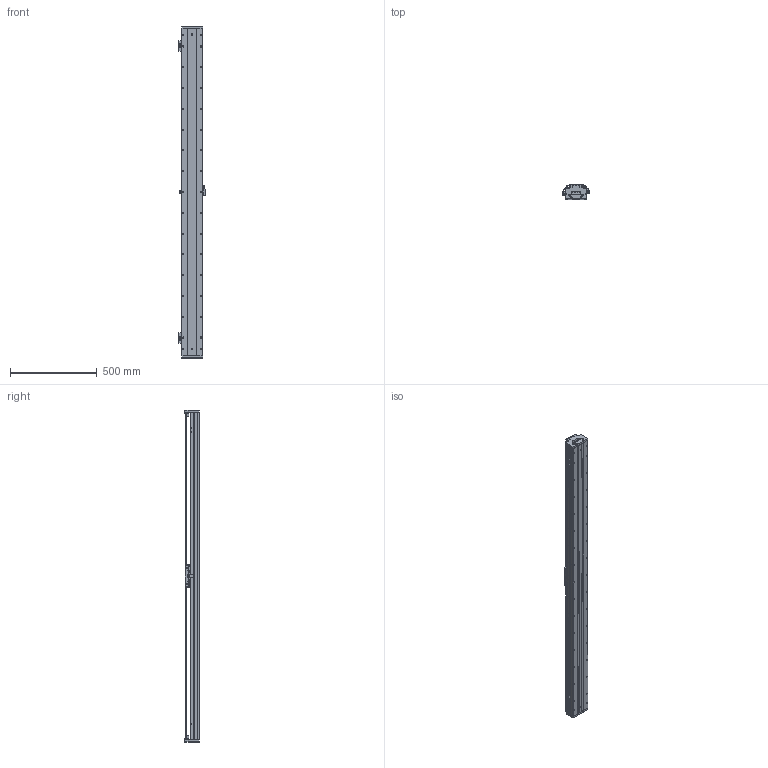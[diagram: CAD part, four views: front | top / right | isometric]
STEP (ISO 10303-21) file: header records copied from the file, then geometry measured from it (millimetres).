
FILE_DESCRIPTION (( 'STEP AP203' ), '1' );
FILE_NAME ('DKW120-B15-W060（T1680-L005-0.2）.STEP', '2021-09-07T06:13:31', ( '微软用户' ), ( '微软中国' ), 'SwSTEP 2.0', 'SolidWorks 2018', '' );
FILE_SCHEMA (( 'CONFIG_CONTROL_DESIGN' ));
Length unit declared in the file: millimetre
Products named in the file (24): DKW-HXJ-JY-00 遣喳砎蝶; DKW-HYB-JY-A-00 賑輸揤啣A; RUS嫖掑郪璃; 10940-0001-004-00 120詩湍裔啣; DKW119-HT-C15-00 賑怢啣; DKW119-RU-DTJ-00 RU2黍杅芛盓殤; 砎蝶猾沭; MSB15TS2FC+U92.7-16.35_16.35N_(0_45.85_0_01G-M4); 10980-0001-003-00 嫖萇羲壽嘐隅釱; 12160-0000-003-00 DKW120詩湍嶺輸; BKM015-W060-C1-TP-3; EE_SX674A; 12160-0000-004-00  DKW120詩湍揤輸; B15-W060; DKW120-B15-W060（T1680-L005-0.2）; DKW120 单轴模组-拉钢带组件; MSB15-DG-U; BKMA01-W060-TRL280; 06652-0001-001-00 DKW120傷啣; DKW120-B15-T300-DZ-00 菁釱; RUS嫖掑喜; 06652-0001-004-00 DKW120嶺輸菜輸; DKW-SG-GYP-H-00 嫖萇覜茼え; Ru2
Assembly tree (41 placements, depth 3):
  DKW120-B15-W060（T1680-L005-0.2）
    DKW120-B15-T300-DZ-00 菁釱
    B15-W060
      DKW-SG-GYP-H-00 嫖萇覜茼え
      DKW-HYB-JY-A-00 賑輸揤啣A  x2
      DKW119-HT-C15-00 賑怢啣
      MSB15TS2FC+U92.7-16.35_16.35N_(0_45.85_0_01G-M4)  x4
      BKM015-W060-C1-TP-3
    MSB15-DG-U  x2
    DKW120 单轴模组-拉钢带组件
      06652-0001-001-00 DKW120傷啣  x2
      06652-0001-004-00 DKW120嶺輸菜輸  x4
      DKW-HXJ-JY-00 遣喳砎蝶  x4
      10940-0001-004-00 120詩湍裔啣
      砎蝶猾沭  x2
      12160-0000-003-00 DKW120詩湍嶺輸  x2
      12160-0000-004-00  DKW120詩湍揤輸  x2
    BKMA01-W060-TRL280
    RUS嫖掑郪璃
      RUS嫖掑喜
      Ru2
    DKW119-RU-DTJ-00 RU2黍杅芛盓殤
    10980-0001-003-00 嫖萇羲壽嘐隅釱  x2
    EE_SX674A  x3
Bounding box: 154.11 x 84 x 1916 mm (x, y, z)
Volume: 6473426.7 mm3; surface area: 2605183.6 mm2
Topology: 49 solids, 98 shells, 4500 faces, 12369 edges, 7977 vertices
Faces by surface type: plane 2459, cylinder 1408, cone 366, bspline 267
Entity records: 127146 total; most frequent: CARTESIAN_POINT 45787, ORIENTED_EDGE 16839, DIRECTION 15441, EDGE_CURVE 8460, VERTEX_POINT 5556, AXIS2_PLACEMENT_3D 5163, VECTOR 5115, LINE 5115
